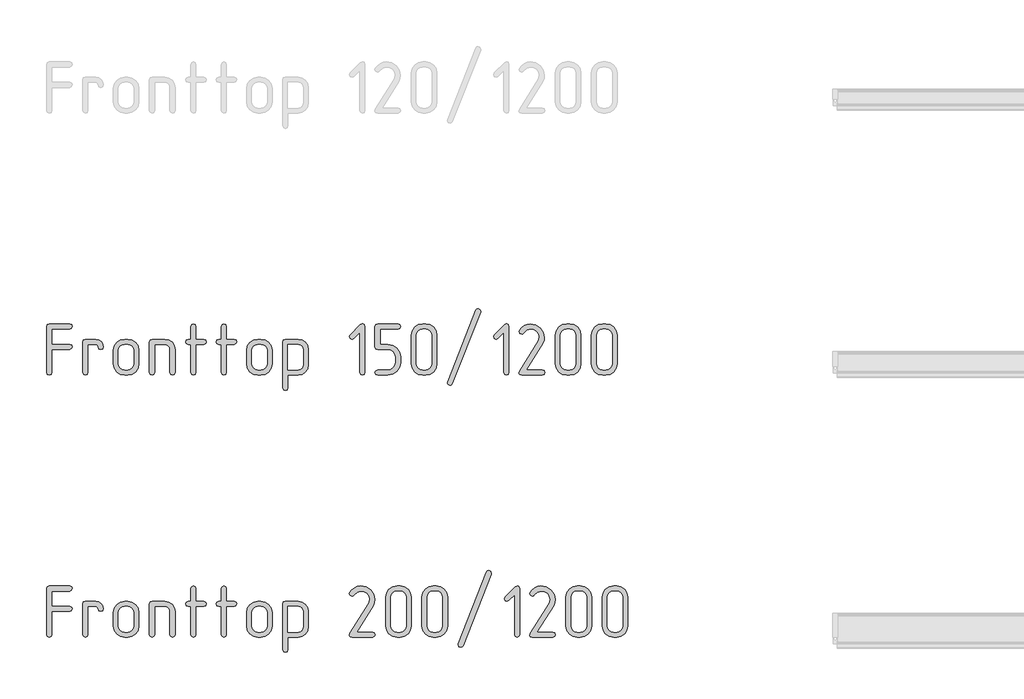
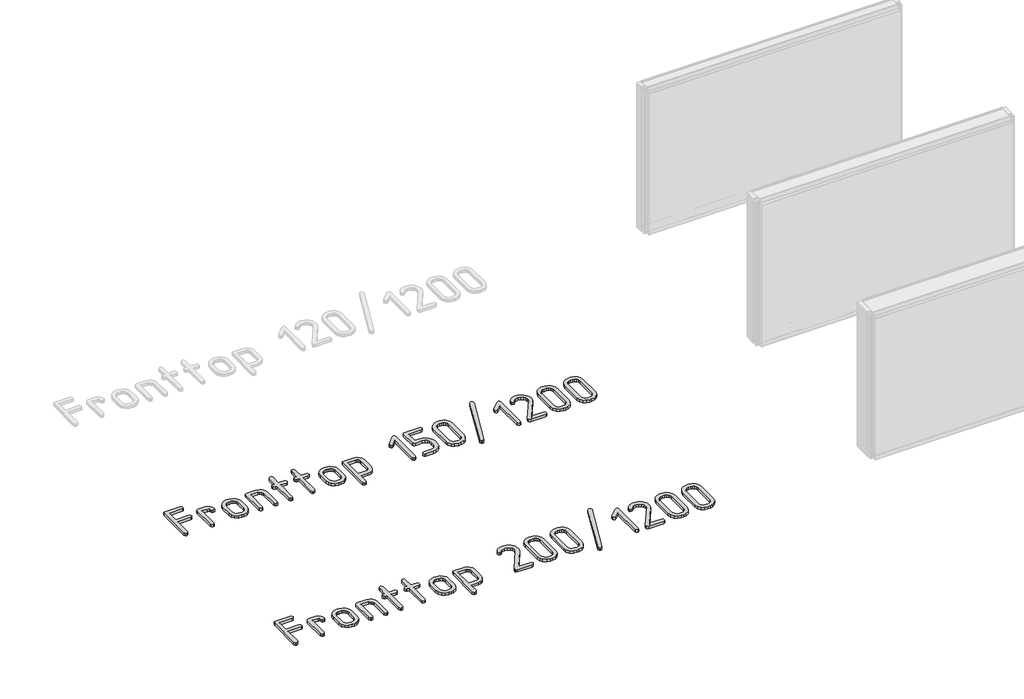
# One storey, part 9 of 37: 2 proxies.
"""IFC4 building model written with IfcOpenShell, lengths in millimetres."""

from ifc_helpers import new_model, si_unit, origin, origin_with_axes, place, context, project, spatial, polyline, outline, extrude, element, save

model = new_model("IFC4")

# Units and contexts
model_context = context("Model", 3, world=origin())
ifc_project = project(units=[si_unit("LENGTHUNIT", "METRE", prefix="MILLI")], contexts=[model_context])

# Site, building, storey
site = spatial("IfcSite", under=ifc_project)
building = spatial("IfcBuilding", under=site)
storey = spatial("IfcBuildingStorey", under=building, Name="Этаж 01", Elevation=0.0)

# Proxies
placement = place(None, origin())
element("IfcBuildingElementProxy", 1, Name="300 мм ГОСТ 2.304", ObjectType="300 мм ГОСТ 2.304", at=placement, inside=storey, context=model_context, shape_type="SweptSolid", body=[
    extrude(outline(polyline([(56161.9989869, -34051.9738322), (56264.4173344, -34051.9738322), (56275.3434297, -34056.0573223), (56278.9854614, -34066.5419592), (56275.1227005, -34077.0633842), (56264.4173344, -34081.5515446), (56161.9989869, -34081.5515446), (56161.9989869, -34213.5476044), (56157.9154968, -34224.4736997), (56147.4308599, -34228.1157314), (56136.9094349, -34224.2529705), (56132.4212745, -34213.5476044), (56132.4212745, -33949.9969431), (56136.1736709, -33938.739754), (56147.4308599, -33934.9873577), (56264.4173344, -33934.9873577), (56275.3434297, -33939.291577), (56278.9854614, -33949.9969431), (56275.1227005, -33960.0769098), (56264.4173344, -33964.5650701), (56161.9989869, -33964.5650701), (56161.9989869, -34051.9738322)])), origin_with_axes(), (0.0, 0.0, 1.0), 20.0),
    extrude(outline(polyline([(56457.0403471, -34066.9834176), (56452.9568569, -34077.9095128), (56442.4722201, -34081.5515446), (56431.950795, -34077.6887836), (56427.4626347, -34066.9834176), (56423.3791445, -34056.7195099), (56412.8945077, -34052.4152905), (56369.1901266, -34052.4152905), (56369.1901266, -34213.5476044), (56365.1066365, -34224.4736997), (56354.6219996, -34228.1157314), (56344.1005746, -34224.2529705), (56339.6124142, -34213.5476044), (56339.6124142, -34037.8471635), (56343.3648106, -34026.9210683), (56354.6219996, -34023.2790365), (56412.8945077, -34023.2790365), (56430.0378086, -34026.7003391), (56444.2012654, -34036.1181182), (56453.6190445, -34050.0608458), (56457.0403471, -34066.9834176)])), origin_with_axes(), (0.0, 0.0, 1.0), 20.0),
    extrude(outline(polyline([(56660.405514, -34163.8099587), (56655.6966245, -34188.7891462), (56641.5699559, -34209.7216317), (56620.9685641, -34223.5172065), (56596.0997413, -34228.1157314), (56578.5149819, -34228.1157314), (56553.5909767, -34223.5172065), (56532.6768853, -34209.7216317), (56518.5502167, -34188.7891462), (56513.8413271, -34163.8099587), (56513.8413271, -34087.5848093), (56518.5502167, -34062.9367156), (56532.6768853, -34042.1145947), (56553.9956469, -34027.9879261), (56578.5149819, -34023.2790365), (56596.0997413, -34023.2790365), (56620.7386379, -34027.9971231), (56641.5331677, -34042.1513829), (56655.6874274, -34062.9459127), (56660.405514, -34087.5848093), (56660.405514, -34163.8099587)]), holes=[polyline([(56631.26926, -34163.8099587), (56631.26926, -34087.5848093), (56628.694086, -34074.0835401), (56620.9685641, -34062.7159864), (56609.6010105, -34054.9904645), (56596.0997413, -34052.4152905), (56578.5149819, -34052.4152905), (56565.0229097, -34054.9904645), (56553.6829472, -34062.7159864), (56545.9850165, -34074.0835401), (56543.4190395, -34087.5848093), (56543.4190395, -34163.8099587), (56545.9850165, -34177.3112279), (56553.6829472, -34188.6787816), (56565.0229097, -34196.4043035), (56578.5149819, -34198.9794774), (56596.0997413, -34198.9794774), (56609.6010105, -34196.4043035), (56620.9685641, -34188.6787816), (56628.694086, -34177.3112279), (56631.26926, -34163.8099587)])]), origin_with_axes(), (0.0, 0.0, 1.0), 20.0),
    extrude(outline(polyline([(56867.5966537, -34213.5476044), (56863.5131635, -34224.4736997), (56853.0285267, -34228.1157314), (56842.7278308, -34224.2529705), (56838.4603997, -34213.5476044), (56838.4603997, -34081.5515446), (56836.3174871, -34070.4139172), (56829.8887492, -34060.986941), (56820.3514085, -34054.5582032), (56808.8826873, -34052.4152905), (56750.6101792, -34052.4152905), (56750.6101792, -34213.5476044), (56746.5266891, -34224.4736997), (56736.0420522, -34228.1157314), (56725.5206272, -34224.2529705), (56721.0324668, -34213.5476044), (56721.0324668, -34037.8471635), (56724.7848632, -34026.9210683), (56736.0420522, -34023.2790365), (56808.8826873, -34023.2790365), (56831.7097651, -34027.4544972), (56850.4533527, -34039.9808791), (56863.3108285, -34058.945196), (56867.5966537, -34081.5515446), (56867.5966537, -34213.5476044)])), origin_with_axes(), (0.0, 0.0, 1.0), 20.0),
    extrude(outline(polyline([(56986.9375729, -34023.2790365), (57031.0834124, -34023.2790365), (57042.0095076, -34027.3625267), (57045.6515394, -34037.8471635), (57041.7887784, -34047.9271302), (57031.0834124, -34052.4152905), (56986.9375729, -34052.4152905), (56986.9375729, -34213.5476044), (56982.8540828, -34224.4736997), (56972.3694459, -34228.1157314), (56962.0687501, -34224.2529705), (56957.8013189, -34213.5476044), (56957.8013189, -34052.4152905), (56943.2331919, -34052.4152905), (56932.3070966, -34048.1478594), (56928.2236065, -34037.8471635), (56932.0863675, -34027.5832559), (56943.2331919, -34023.2790365), (56957.8013189, -34023.2790365), (56957.8013189, -33949.9969431), (56962.0687501, -33939.0708478), (56972.3694459, -33934.9873577), (56982.6333536, -33938.8501186), (56986.9375729, -33949.9969431), (56986.9375729, -34023.2790365)])), origin_with_axes(), (0.0, 0.0, 1.0), 20.0),
    extrude(outline(polyline([(57161.1664858, -34023.2790365), (57205.3123253, -34023.2790365), (57216.2384205, -34027.3625267), (57219.8804523, -34037.8471635), (57216.0176913, -34047.9271302), (57205.3123253, -34052.4152905), (57161.1664858, -34052.4152905), (57161.1664858, -34213.5476044), (57157.0829957, -34224.4736997), (57146.5983588, -34228.1157314), (57136.297663, -34224.2529705), (57132.0302318, -34213.5476044), (57132.0302318, -34052.4152905), (57117.4621048, -34052.4152905), (57106.5360096, -34048.1478594), (57102.4525194, -34037.8471635), (57106.3152804, -34027.5832559), (57117.4621048, -34023.2790365), (57132.0302318, -34023.2790365), (57132.0302318, -33949.9969431), (57136.297663, -33939.0708478), (57146.5983588, -33934.9873577), (57156.8622665, -33938.8501186), (57161.1664858, -33949.9969431), (57161.1664858, -34023.2790365)])), origin_with_axes(), (0.0, 0.0, 1.0), 20.0),
    extrude(outline(polyline([(57423.2456192, -34163.8099587), (57418.5367297, -34188.7891462), (57404.4100611, -34209.7216317), (57383.8086693, -34223.5172065), (57358.9398465, -34228.1157314), (57341.3550871, -34228.1157314), (57316.4310819, -34223.5172065), (57295.5169905, -34209.7216317), (57281.3903219, -34188.7891462), (57276.6814323, -34163.8099587), (57276.6814323, -34087.5848093), (57281.3903219, -34062.9367156), (57295.5169905, -34042.1145947), (57316.8357521, -34027.9879261), (57341.3550871, -34023.2790365), (57358.9398465, -34023.2790365), (57383.5787431, -34027.9971231), (57404.3732729, -34042.1513829), (57418.5275326, -34062.9459127), (57423.2456192, -34087.5848093), (57423.2456192, -34163.8099587)]), holes=[polyline([(57394.1093652, -34163.8099587), (57394.1093652, -34087.5848093), (57391.5341912, -34074.0835401), (57383.8086693, -34062.7159864), (57372.4411157, -34054.9904645), (57358.9398465, -34052.4152905), (57341.3550871, -34052.4152905), (57327.8630149, -34054.9904645), (57316.5230524, -34062.7159864), (57308.8251217, -34074.0835401), (57306.2591447, -34087.5848093), (57306.2591447, -34163.8099587), (57308.8251217, -34177.3112279), (57316.5230524, -34188.6787816), (57327.8630149, -34196.4043035), (57341.3550871, -34198.9794774), (57358.9398465, -34198.9794774), (57372.4411157, -34196.4043035), (57383.8086693, -34188.6787816), (57391.5341912, -34177.3112279), (57394.1093652, -34163.8099587)])]), origin_with_axes(), (0.0, 0.0, 1.0), 20.0),
    extrude(outline(polyline([(57513.4502844, -34228.1157314), (57513.4502844, -34301.3978249), (57509.3667943, -34312.3239201), (57498.8821574, -34315.9659519), (57488.3607324, -34312.1031909), (57483.872572, -34301.3978249), (57483.872572, -34037.8471635), (57487.6249684, -34026.9210683), (57498.8821574, -34023.2790365), (57571.7227925, -34023.2790365), (57594.5498703, -34027.4544972), (57613.2934579, -34039.9808791), (57626.1509337, -34058.945196), (57630.4367589, -34081.5515446), (57630.4367589, -34169.401765), (57626.1509337, -34192.3392074), (57613.2934579, -34211.4138889), (57594.5498703, -34223.9402708), (57571.7227925, -34228.1157314), (57513.4502844, -34228.1157314)]), holes=[polyline([(57513.4502844, -34198.9794774), (57571.7227925, -34198.9794774), (57583.1915137, -34196.8365648), (57592.7288544, -34190.4078269), (57599.1575923, -34180.8704862), (57601.3005049, -34169.401765), (57601.3005049, -34081.5515446), (57599.1575923, -34070.4139172), (57592.7288544, -34060.986941), (57583.1915137, -34054.5582032), (57571.7227925, -34052.4152905), (57513.4502844, -34052.4152905), (57513.4502844, -34198.9794774)])]), origin_with_axes(), (0.0, 0.0, 1.0), 20.0),
    extrude(outline(polyline([(57953.1428451, -34213.5476044), (57949.0593549, -34224.4736997), (57938.5747181, -34228.1157314), (57928.4947514, -34224.2529705), (57924.006591, -34213.5476044), (57924.006591, -33985.1664618), (57890.1614475, -34018.570147), (57880.30221, -34023.2790365), (57869.780785, -34018.7908762), (57865.2926246, -34008.2694511), (57870.0015142, -33998.0423317), (57928.2740222, -33939.6962472), (57941.149892, -33933.2951005), (57949.7215425, -33937.5993199), (57953.1428451, -33949.9969431), (57953.1428451, -34213.5476044)])), origin_with_axes(), (0.0, 0.0, 1.0), 20.0),
    extrude(outline(polyline([(58040.8459127, -33964.5650701), (58040.8459127, -34052.4152905), (58084.5502937, -34052.4152905), (58112.7024634, -34057.7771706), (58136.3848669, -34073.8628109), (58152.4705071, -34097.5452143), (58157.8323872, -34125.697384), (58157.8323872, -34154.833638), (58152.4705071, -34183.0317929), (58136.3848669, -34206.7049993), (58112.7024634, -34222.7630484), (58084.5502937, -34228.1157314), (58026.2777857, -34228.1157314), (58015.3516904, -34223.8483003), (58011.2682003, -34213.5476044), (58015.1309613, -34203.2469086), (58026.2777857, -34198.9794774), (58084.5502937, -34198.9794774), (58101.6935947, -34195.5581749), (58115.8570515, -34185.9196666), (58125.2748306, -34171.7562098), (58128.6961332, -34154.833638), (58128.6961332, -34125.697384), (58125.2748306, -34108.554083), (58115.8570515, -34094.3906262), (58101.6935947, -34084.9728471), (58084.5502937, -34081.5515446), (58026.2777857, -34081.5515446), (58015.0205967, -34077.9095128), (58011.2682003, -34066.9834176), (58011.2682003, -33949.9969431), (58015.0205967, -33938.739754), (58026.2777857, -33934.9873577), (58143.2642602, -33934.9873577), (58154.1903554, -33939.291577), (58157.8323872, -33949.9969431), (58153.9696262, -33960.0769098), (58143.2642602, -33964.5650701), (58040.8459127, -33964.5650701)])), origin_with_axes(), (0.0, 0.0, 1.0), 20.0),
    extrude(outline(polyline([(58365.0235269, -34163.8099587), (58360.3146373, -34188.7891462), (58346.1879687, -34209.7216317), (58325.586577, -34223.5172065), (58300.7177541, -34228.1157314), (58283.1329947, -34228.1157314), (58258.2089896, -34223.5172065), (58237.2948981, -34209.7216317), (58223.1682295, -34188.7891462), (58218.45934, -34163.8099587), (58218.45934, -33999.7345888), (58223.1682295, -33975.0864952), (58237.2948981, -33954.2643742), (58258.3929306, -33939.8066118), (58283.1329947, -33934.9873577), (58300.7177541, -33934.9873577), (58325.3566507, -33939.7054443), (58346.1511805, -33953.859704), (58360.3054403, -33974.7645984), (58365.0235269, -33999.7345888), (58365.0235269, -34163.8099587)]), holes=[polyline([(58335.8872728, -34163.8099587), (58335.8872728, -33999.7345888), (58333.3120989, -33986.2333196), (58325.586577, -33974.865766), (58314.2190233, -33967.1402441), (58300.7177541, -33964.5650701), (58283.1329947, -33964.5650701), (58269.6409226, -33967.1402441), (58258.3009601, -33974.865766), (58250.6030293, -33986.2333196), (58248.0370524, -33999.7345888), (58248.0370524, -34163.8099587), (58250.6030293, -34177.3112279), (58258.3009601, -34188.6787816), (58269.6409226, -34196.4043035), (58283.1329947, -34198.9794774), (58300.7177541, -34198.9794774), (58314.2190233, -34196.4043035), (58325.586577, -34188.6787816), (58333.3120989, -34177.3112279), (58335.8872728, -34163.8099587)])]), origin_with_axes(), (0.0, 0.0, 1.0), 20.0),
    extrude(outline(polyline([(58615.4775892, -33867.2970706), (58454.3452753, -34277.4119188), (58448.7902572, -34284.2545239), (58441.1015235, -34286.8296979), (58430.3593692, -34282.7462077), (58425.6504797, -34272.2615709), (58426.5333965, -34266.6697645), (58587.6657103, -33856.6284927), (58593.2207285, -33849.7123112), (58600.9094622, -33847.1371372), (58611.6516164, -33851.4413566), (58616.360506, -33861.7052642), (58615.4775892, -33867.2970706)])), origin_with_axes(), (0.0, 0.0, 1.0), 20.0),
    extrude(outline(polyline([(58777.1985143, -34213.5476044), (58773.1150241, -34224.4736997), (58762.6303873, -34228.1157314), (58752.5504206, -34224.2529705), (58748.0622602, -34213.5476044), (58748.0622602, -33985.1664618), (58714.2171167, -34018.570147), (58704.3578792, -34023.2790365), (58693.8364542, -34018.7908762), (58689.3482938, -34008.2694511), (58694.0571833, -33998.0423317), (58752.3296914, -33939.6962472), (58765.2055612, -33933.2951005), (58773.7772117, -33937.5993199), (58777.1985143, -33949.9969431), (58777.1985143, -34213.5476044)])), origin_with_axes(), (0.0, 0.0, 1.0), 20.0),
    extrude(outline(polyline([(58971.1459021, -34048.1478594), (58876.4530766, -34198.9794774), (58967.3199294, -34198.9794774), (58978.2460246, -34203.0629676), (58981.8880564, -34213.5476044), (58978.0252954, -34223.6275711), (58967.3199294, -34228.1157314), (58850.3334549, -34228.1157314), (58838.4140783, -34225.2278578), (58834.4409527, -34216.5642368), (58837.8990435, -34205.3806241), (58945.9091972, -34033.138274), (58951.4274272, -34011.2860835), (58947.7853954, -33993.1862893), (58936.8593002, -33978.3238567), (58920.3597927, -33968.0047668), (58900.880441, -33964.5650701), (58879.0282505, -33970.5615466), (58862.3264079, -33986.858719), (58857.4151833, -33991.9906728), (58850.3334549, -33993.7013241), (58840.032759, -33989.6546222), (58835.3238695, -33979.5746555), (58837.8990435, -33971.4076752), (58849.6896614, -33956.6923954), (58864.4601235, -33945.0673244), (58881.1619661, -33937.5073494), (58898.7467255, -33934.9873577), (58930.1270597, -33940.7814991), (58956.5777751, -33958.1639234), (58974.5672047, -33983.0327463), (58980.5636812, -34012.1690003), (58978.2092364, -34030.5814941), (58971.1459021, -34048.1478594)])), origin_with_axes(), (0.0, 0.0, 1.0), 20.0),
    extrude(outline(polyline([(59189.0791961, -34163.8099587), (59184.3703065, -34188.7891462), (59170.2436379, -34209.7216317), (59149.6422462, -34223.5172065), (59124.7734233, -34228.1157314), (59107.1886639, -34228.1157314), (59082.2646588, -34223.5172065), (59061.3505673, -34209.7216317), (59047.2238987, -34188.7891462), (59042.5150092, -34163.8099587), (59042.5150092, -33999.7345888), (59047.2238987, -33975.0864952), (59061.3505673, -33954.2643742), (59082.4485998, -33939.8066118), (59107.1886639, -33934.9873577), (59124.7734233, -33934.9873577), (59149.4123199, -33939.7054443), (59170.2068497, -33953.859704), (59184.3611095, -33974.7645984), (59189.0791961, -33999.7345888), (59189.0791961, -34163.8099587)]), holes=[polyline([(59159.942942, -34163.8099587), (59159.942942, -33999.7345888), (59157.3677681, -33986.2333196), (59149.6422462, -33974.865766), (59138.2746925, -33967.1402441), (59124.7734233, -33964.5650701), (59107.1886639, -33964.5650701), (59093.6965918, -33967.1402441), (59082.3566293, -33974.865766), (59074.6586985, -33986.2333196), (59072.0927216, -33999.7345888), (59072.0927216, -34163.8099587), (59074.6586985, -34177.3112279), (59082.3566293, -34188.6787816), (59093.6965918, -34196.4043035), (59107.1886639, -34198.9794774), (59124.7734233, -34198.9794774), (59138.2746925, -34196.4043035), (59149.6422462, -34188.6787816), (59157.3677681, -34177.3112279), (59159.942942, -34163.8099587)])]), origin_with_axes(), (0.0, 0.0, 1.0), 20.0),
    extrude(outline(polyline([(59396.2703357, -34163.8099587), (59391.5614462, -34188.7891462), (59377.4347776, -34209.7216317), (59356.8333859, -34223.5172065), (59331.964563, -34228.1157314), (59314.3798036, -34228.1157314), (59289.4557984, -34223.5172065), (59268.541707, -34209.7216317), (59254.4150384, -34188.7891462), (59249.7061489, -34163.8099587), (59249.7061489, -33999.7345888), (59254.4150384, -33975.0864952), (59268.541707, -33954.2643742), (59289.6397394, -33939.8066118), (59314.3798036, -33934.9873577), (59331.964563, -33934.9873577), (59356.6034596, -33939.7054443), (59377.3979894, -33953.859704), (59391.5522492, -33974.7645984), (59396.2703357, -33999.7345888), (59396.2703357, -34163.8099587)]), holes=[polyline([(59367.1340817, -34163.8099587), (59367.1340817, -33999.7345888), (59364.5589078, -33986.2333196), (59356.8333859, -33974.865766), (59345.4658322, -33967.1402441), (59331.964563, -33964.5650701), (59314.3798036, -33964.5650701), (59300.8877314, -33967.1402441), (59289.5477689, -33974.865766), (59281.8498382, -33986.2333196), (59279.2838613, -33999.7345888), (59279.2838613, -34163.8099587), (59281.8498382, -34177.3112279), (59289.5477689, -34188.6787816), (59300.8877314, -34196.4043035), (59314.3798036, -34198.9794774), (59331.964563, -34198.9794774), (59345.4658322, -34196.4043035), (59356.8333859, -34188.6787816), (59364.5589078, -34177.3112279), (59367.1340817, -34163.8099587)])]), origin_with_axes(), (0.0, 0.0, 1.0), 20.0),
])
element("IfcBuildingElementProxy", 2, Name="300 мм ГОСТ 2.304", ObjectType="300 мм ГОСТ 2.304", at=placement, inside=storey, context=model_context, shape_type="SweptSolid", body=[
    extrude(outline(polyline([(56161.9989869, -35551.9738322), (56264.4173344, -35551.9738322), (56275.3434297, -35556.0573223), (56278.9854614, -35566.5419592), (56275.1227005, -35577.0633842), (56264.4173344, -35581.5515446), (56161.9989869, -35581.5515446), (56161.9989869, -35713.5476044), (56157.9154968, -35724.4736997), (56147.4308599, -35728.1157314), (56136.9094349, -35724.2529705), (56132.4212745, -35713.5476044), (56132.4212745, -35449.9969431), (56136.1736709, -35438.739754), (56147.4308599, -35434.9873577), (56264.4173344, -35434.9873577), (56275.3434297, -35439.291577), (56278.9854614, -35449.9969431), (56275.1227005, -35460.0769098), (56264.4173344, -35464.5650701), (56161.9989869, -35464.5650701), (56161.9989869, -35551.9738322)])), origin_with_axes(), (0.0, 0.0, 1.0), 20.0),
    extrude(outline(polyline([(56457.0403471, -35566.9834176), (56452.9568569, -35577.9095128), (56442.4722201, -35581.5515446), (56431.950795, -35577.6887836), (56427.4626347, -35566.9834176), (56423.3791445, -35556.7195099), (56412.8945077, -35552.4152905), (56369.1901266, -35552.4152905), (56369.1901266, -35713.5476044), (56365.1066365, -35724.4736997), (56354.6219996, -35728.1157314), (56344.1005746, -35724.2529705), (56339.6124142, -35713.5476044), (56339.6124142, -35537.8471635), (56343.3648106, -35526.9210683), (56354.6219996, -35523.2790365), (56412.8945077, -35523.2790365), (56430.0378086, -35526.7003391), (56444.2012654, -35536.1181182), (56453.6190445, -35550.0608458), (56457.0403471, -35566.9834176)])), origin_with_axes(), (0.0, 0.0, 1.0), 20.0),
    extrude(outline(polyline([(56660.405514, -35663.8099587), (56655.6966245, -35688.7891462), (56641.5699559, -35709.7216317), (56620.9685641, -35723.5172065), (56596.0997413, -35728.1157314), (56578.5149819, -35728.1157314), (56553.5909767, -35723.5172065), (56532.6768853, -35709.7216317), (56518.5502167, -35688.7891462), (56513.8413271, -35663.8099587), (56513.8413271, -35587.5848093), (56518.5502167, -35562.9367156), (56532.6768853, -35542.1145947), (56553.9956469, -35527.9879261), (56578.5149819, -35523.2790365), (56596.0997413, -35523.2790365), (56620.7386379, -35527.9971231), (56641.5331677, -35542.1513829), (56655.6874274, -35562.9459127), (56660.405514, -35587.5848093), (56660.405514, -35663.8099587)]), holes=[polyline([(56631.26926, -35663.8099587), (56631.26926, -35587.5848093), (56628.694086, -35574.0835401), (56620.9685641, -35562.7159864), (56609.6010105, -35554.9904645), (56596.0997413, -35552.4152905), (56578.5149819, -35552.4152905), (56565.0229097, -35554.9904645), (56553.6829472, -35562.7159864), (56545.9850165, -35574.0835401), (56543.4190395, -35587.5848093), (56543.4190395, -35663.8099587), (56545.9850165, -35677.3112279), (56553.6829472, -35688.6787816), (56565.0229097, -35696.4043035), (56578.5149819, -35698.9794774), (56596.0997413, -35698.9794774), (56609.6010105, -35696.4043035), (56620.9685641, -35688.6787816), (56628.694086, -35677.3112279), (56631.26926, -35663.8099587)])]), origin_with_axes(), (0.0, 0.0, 1.0), 20.0),
    extrude(outline(polyline([(56867.5966537, -35713.5476044), (56863.5131635, -35724.4736997), (56853.0285267, -35728.1157314), (56842.7278308, -35724.2529705), (56838.4603997, -35713.5476044), (56838.4603997, -35581.5515446), (56836.3174871, -35570.4139172), (56829.8887492, -35560.986941), (56820.3514085, -35554.5582032), (56808.8826873, -35552.4152905), (56750.6101792, -35552.4152905), (56750.6101792, -35713.5476044), (56746.5266891, -35724.4736997), (56736.0420522, -35728.1157314), (56725.5206272, -35724.2529705), (56721.0324668, -35713.5476044), (56721.0324668, -35537.8471635), (56724.7848632, -35526.9210683), (56736.0420522, -35523.2790365), (56808.8826873, -35523.2790365), (56831.7097651, -35527.4544972), (56850.4533527, -35539.9808791), (56863.3108285, -35558.945196), (56867.5966537, -35581.5515446), (56867.5966537, -35713.5476044)])), origin_with_axes(), (0.0, 0.0, 1.0), 20.0),
    extrude(outline(polyline([(56986.9375729, -35523.2790365), (57031.0834124, -35523.2790365), (57042.0095076, -35527.3625267), (57045.6515394, -35537.8471635), (57041.7887784, -35547.9271302), (57031.0834124, -35552.4152905), (56986.9375729, -35552.4152905), (56986.9375729, -35713.5476044), (56982.8540828, -35724.4736997), (56972.3694459, -35728.1157314), (56962.0687501, -35724.2529705), (56957.8013189, -35713.5476044), (56957.8013189, -35552.4152905), (56943.2331919, -35552.4152905), (56932.3070966, -35548.1478594), (56928.2236065, -35537.8471635), (56932.0863675, -35527.5832559), (56943.2331919, -35523.2790365), (56957.8013189, -35523.2790365), (56957.8013189, -35449.9969431), (56962.0687501, -35439.0708478), (56972.3694459, -35434.9873577), (56982.6333536, -35438.8501186), (56986.9375729, -35449.9969431), (56986.9375729, -35523.2790365)])), origin_with_axes(), (0.0, 0.0, 1.0), 20.0),
    extrude(outline(polyline([(57161.1664858, -35523.2790365), (57205.3123253, -35523.2790365), (57216.2384205, -35527.3625267), (57219.8804523, -35537.8471635), (57216.0176913, -35547.9271302), (57205.3123253, -35552.4152905), (57161.1664858, -35552.4152905), (57161.1664858, -35713.5476044), (57157.0829957, -35724.4736997), (57146.5983588, -35728.1157314), (57136.297663, -35724.2529705), (57132.0302318, -35713.5476044), (57132.0302318, -35552.4152905), (57117.4621048, -35552.4152905), (57106.5360096, -35548.1478594), (57102.4525194, -35537.8471635), (57106.3152804, -35527.5832559), (57117.4621048, -35523.2790365), (57132.0302318, -35523.2790365), (57132.0302318, -35449.9969431), (57136.297663, -35439.0708478), (57146.5983588, -35434.9873577), (57156.8622665, -35438.8501186), (57161.1664858, -35449.9969431), (57161.1664858, -35523.2790365)])), origin_with_axes(), (0.0, 0.0, 1.0), 20.0),
    extrude(outline(polyline([(57423.2456192, -35663.8099587), (57418.5367297, -35688.7891462), (57404.4100611, -35709.7216317), (57383.8086693, -35723.5172065), (57358.9398465, -35728.1157314), (57341.3550871, -35728.1157314), (57316.4310819, -35723.5172065), (57295.5169905, -35709.7216317), (57281.3903219, -35688.7891462), (57276.6814323, -35663.8099587), (57276.6814323, -35587.5848093), (57281.3903219, -35562.9367156), (57295.5169905, -35542.1145947), (57316.8357521, -35527.9879261), (57341.3550871, -35523.2790365), (57358.9398465, -35523.2790365), (57383.5787431, -35527.9971231), (57404.3732729, -35542.1513829), (57418.5275326, -35562.9459127), (57423.2456192, -35587.5848093), (57423.2456192, -35663.8099587)]), holes=[polyline([(57394.1093652, -35663.8099587), (57394.1093652, -35587.5848093), (57391.5341912, -35574.0835401), (57383.8086693, -35562.7159864), (57372.4411157, -35554.9904645), (57358.9398465, -35552.4152905), (57341.3550871, -35552.4152905), (57327.8630149, -35554.9904645), (57316.5230524, -35562.7159864), (57308.8251217, -35574.0835401), (57306.2591447, -35587.5848093), (57306.2591447, -35663.8099587), (57308.8251217, -35677.3112279), (57316.5230524, -35688.6787816), (57327.8630149, -35696.4043035), (57341.3550871, -35698.9794774), (57358.9398465, -35698.9794774), (57372.4411157, -35696.4043035), (57383.8086693, -35688.6787816), (57391.5341912, -35677.3112279), (57394.1093652, -35663.8099587)])]), origin_with_axes(), (0.0, 0.0, 1.0), 20.0),
    extrude(outline(polyline([(57513.4502844, -35728.1157314), (57513.4502844, -35801.3978249), (57509.3667943, -35812.3239201), (57498.8821574, -35815.9659519), (57488.3607324, -35812.1031909), (57483.872572, -35801.3978249), (57483.872572, -35537.8471635), (57487.6249684, -35526.9210683), (57498.8821574, -35523.2790365), (57571.7227925, -35523.2790365), (57594.5498703, -35527.4544972), (57613.2934579, -35539.9808791), (57626.1509337, -35558.945196), (57630.4367589, -35581.5515446), (57630.4367589, -35669.401765), (57626.1509337, -35692.3392074), (57613.2934579, -35711.4138889), (57594.5498703, -35723.9402708), (57571.7227925, -35728.1157314), (57513.4502844, -35728.1157314)]), holes=[polyline([(57513.4502844, -35698.9794774), (57571.7227925, -35698.9794774), (57583.1915137, -35696.8365648), (57592.7288544, -35690.4078269), (57599.1575923, -35680.8704862), (57601.3005049, -35669.401765), (57601.3005049, -35581.5515446), (57599.1575923, -35570.4139172), (57592.7288544, -35560.986941), (57583.1915137, -35554.5582032), (57571.7227925, -35552.4152905), (57513.4502844, -35552.4152905), (57513.4502844, -35698.9794774)])]), origin_with_axes(), (0.0, 0.0, 1.0), 20.0),
    extrude(outline(polyline([(58001.1146572, -35548.1478594), (57906.4218317, -35698.9794774), (57997.2886845, -35698.9794774), (58008.2147797, -35703.0629676), (58011.8568115, -35713.5476044), (58007.9940505, -35723.6275711), (57997.2886845, -35728.1157314), (57880.30221, -35728.1157314), (57868.3828334, -35725.2278578), (57864.4097078, -35716.5642368), (57867.8677986, -35705.3806241), (57975.8779524, -35533.138274), (57981.3961823, -35511.2860835), (57977.7541505, -35493.1862893), (57966.8280553, -35478.3238567), (57950.3285478, -35468.0047668), (57930.8491962, -35464.5650701), (57908.9970056, -35470.5615466), (57892.2951631, -35486.858719), (57887.3839384, -35491.9906728), (57880.30221, -35493.7013241), (57870.0015142, -35489.6546222), (57865.2926246, -35479.5746555), (57867.8677986, -35471.4076752), (57879.6584165, -35456.6923954), (57894.4288786, -35445.0673244), (57911.1307212, -35437.5073494), (57928.7154806, -35434.9873577), (57960.0958148, -35440.7814991), (57986.5465302, -35458.1639234), (58004.5359598, -35483.0327463), (58010.5324363, -35512.1690003), (58008.1779915, -35530.5814941), (58001.1146572, -35548.1478594)])), origin_with_axes(), (0.0, 0.0, 1.0), 20.0),
    extrude(outline(polyline([(58219.0479512, -35663.8099587), (58214.3390616, -35688.7891462), (58200.212393, -35709.7216317), (58179.6110013, -35723.5172065), (58154.7421784, -35728.1157314), (58137.1574191, -35728.1157314), (58112.2334139, -35723.5172065), (58091.3193225, -35709.7216317), (58077.1926538, -35688.7891462), (58072.4837643, -35663.8099587), (58072.4837643, -35499.7345888), (58077.1926538, -35475.0864952), (58091.3193225, -35454.2643742), (58112.4173549, -35439.8066118), (58137.1574191, -35434.9873577), (58154.7421784, -35434.9873577), (58179.381075, -35439.7054443), (58200.1756048, -35453.859704), (58214.3298646, -35474.7645984), (58219.0479512, -35499.7345888), (58219.0479512, -35663.8099587)]), holes=[polyline([(58189.9116972, -35663.8099587), (58189.9116972, -35499.7345888), (58187.3365232, -35486.2333196), (58179.6110013, -35474.865766), (58168.2434476, -35467.1402441), (58154.7421784, -35464.5650701), (58137.1574191, -35464.5650701), (58123.6653469, -35467.1402441), (58112.3253844, -35474.865766), (58104.6274536, -35486.2333196), (58102.0614767, -35499.7345888), (58102.0614767, -35663.8099587), (58104.6274536, -35677.3112279), (58112.3253844, -35688.6787816), (58123.6653469, -35696.4043035), (58137.1574191, -35698.9794774), (58154.7421784, -35698.9794774), (58168.2434476, -35696.4043035), (58179.6110013, -35688.6787816), (58187.3365232, -35677.3112279), (58189.9116972, -35663.8099587)])]), origin_with_axes(), (0.0, 0.0, 1.0), 20.0),
    extrude(outline(polyline([(58426.2390909, -35663.8099587), (58421.5302013, -35688.7891462), (58407.4035327, -35709.7216317), (58386.802141, -35723.5172065), (58361.9333181, -35728.1157314), (58344.3485587, -35728.1157314), (58319.4245536, -35723.5172065), (58298.5104621, -35709.7216317), (58284.3837935, -35688.7891462), (58279.674904, -35663.8099587), (58279.674904, -35499.7345888), (58284.3837935, -35475.0864952), (58298.5104621, -35454.2643742), (58319.6084946, -35439.8066118), (58344.3485587, -35434.9873577), (58361.9333181, -35434.9873577), (58386.5722147, -35439.7054443), (58407.3667445, -35453.859704), (58421.5210043, -35474.7645984), (58426.2390909, -35499.7345888), (58426.2390909, -35663.8099587)]), holes=[polyline([(58397.1028368, -35663.8099587), (58397.1028368, -35499.7345888), (58394.5276629, -35486.2333196), (58386.802141, -35474.865766), (58375.4345873, -35467.1402441), (58361.9333181, -35464.5650701), (58344.3485587, -35464.5650701), (58330.8564866, -35467.1402441), (58319.5165241, -35474.865766), (58311.8185933, -35486.2333196), (58309.2526164, -35499.7345888), (58309.2526164, -35663.8099587), (58311.8185933, -35677.3112279), (58319.5165241, -35688.6787816), (58330.8564866, -35696.4043035), (58344.3485587, -35698.9794774), (58361.9333181, -35698.9794774), (58375.4345873, -35696.4043035), (58386.802141, -35688.6787816), (58394.5276629, -35677.3112279), (58397.1028368, -35663.8099587)])]), origin_with_axes(), (0.0, 0.0, 1.0), 20.0),
    extrude(outline(polyline([(58676.6931532, -35367.2970706), (58515.5608393, -35777.4119188), (58510.0058212, -35784.2545239), (58502.3170875, -35786.8296979), (58491.5749332, -35782.7462077), (58486.8660437, -35772.2615709), (58487.7489605, -35766.6697645), (58648.8812743, -35356.6284927), (58654.4362925, -35349.7123112), (58662.1250262, -35347.1371372), (58672.8671804, -35351.4413566), (58677.57607, -35361.7052642), (58676.6931532, -35367.2970706)])), origin_with_axes(), (0.0, 0.0, 1.0), 20.0),
    extrude(outline(polyline([(58838.4140783, -35713.5476044), (58834.3305881, -35724.4736997), (58823.8459512, -35728.1157314), (58813.7659846, -35724.2529705), (58809.2778242, -35713.5476044), (58809.2778242, -35485.1664618), (58775.4326807, -35518.570147), (58765.5734432, -35523.2790365), (58755.0520182, -35518.7908762), (58750.5638578, -35508.2694511), (58755.2727473, -35498.0423317), (58813.5452554, -35439.6962472), (58826.4211252, -35433.2951005), (58834.9927757, -35437.5993199), (58838.4140783, -35449.9969431), (58838.4140783, -35713.5476044)])), origin_with_axes(), (0.0, 0.0, 1.0), 20.0),
    extrude(outline(polyline([(59032.3614661, -35548.1478594), (58937.6686406, -35698.9794774), (59028.5354934, -35698.9794774), (59039.4615886, -35703.0629676), (59043.1036204, -35713.5476044), (59039.2408594, -35723.6275711), (59028.5354934, -35728.1157314), (58911.5490189, -35728.1157314), (58899.6296423, -35725.2278578), (58895.6565167, -35716.5642368), (58899.1146075, -35705.3806241), (59007.1247612, -35533.138274), (59012.6429912, -35511.2860835), (59009.0009594, -35493.1862893), (58998.0748642, -35478.3238567), (58981.5753567, -35468.0047668), (58962.096005, -35464.5650701), (58940.2438145, -35470.5615466), (58923.5419719, -35486.858719), (58918.6307473, -35491.9906728), (58911.5490189, -35493.7013241), (58901.248323, -35489.6546222), (58896.5394335, -35479.5746555), (58899.1146075, -35471.4076752), (58910.9052254, -35456.6923954), (58925.6756875, -35445.0673244), (58942.3775301, -35437.5073494), (58959.9622895, -35434.9873577), (58991.3426237, -35440.7814991), (59017.7933391, -35458.1639234), (59035.7827687, -35483.0327463), (59041.7792452, -35512.1690003), (59039.4248004, -35530.5814941), (59032.3614661, -35548.1478594)])), origin_with_axes(), (0.0, 0.0, 1.0), 20.0),
    extrude(outline(polyline([(59250.2947601, -35663.8099587), (59245.5858705, -35688.7891462), (59231.4592019, -35709.7216317), (59210.8578102, -35723.5172065), (59185.9889873, -35728.1157314), (59168.4042279, -35728.1157314), (59143.4802228, -35723.5172065), (59122.5661313, -35709.7216317), (59108.4394627, -35688.7891462), (59103.7305732, -35663.8099587), (59103.7305732, -35499.7345888), (59108.4394627, -35475.0864952), (59122.5661313, -35454.2643742), (59143.6641638, -35439.8066118), (59168.4042279, -35434.9873577), (59185.9889873, -35434.9873577), (59210.6278839, -35439.7054443), (59231.4224137, -35453.859704), (59245.5766735, -35474.7645984), (59250.2947601, -35499.7345888), (59250.2947601, -35663.8099587)]), holes=[polyline([(59221.158506, -35663.8099587), (59221.158506, -35499.7345888), (59218.5833321, -35486.2333196), (59210.8578102, -35474.865766), (59199.4902565, -35467.1402441), (59185.9889873, -35464.5650701), (59168.4042279, -35464.5650701), (59154.9121558, -35467.1402441), (59143.5721933, -35474.865766), (59135.8742625, -35486.2333196), (59133.3082856, -35499.7345888), (59133.3082856, -35663.8099587), (59135.8742625, -35677.3112279), (59143.5721933, -35688.6787816), (59154.9121558, -35696.4043035), (59168.4042279, -35698.9794774), (59185.9889873, -35698.9794774), (59199.4902565, -35696.4043035), (59210.8578102, -35688.6787816), (59218.5833321, -35677.3112279), (59221.158506, -35663.8099587)])]), origin_with_axes(), (0.0, 0.0, 1.0), 20.0),
    extrude(outline(polyline([(59457.4858997, -35663.8099587), (59452.7770102, -35688.7891462), (59438.6503416, -35709.7216317), (59418.0489499, -35723.5172065), (59393.180127, -35728.1157314), (59375.5953676, -35728.1157314), (59350.6713624, -35723.5172065), (59329.757271, -35709.7216317), (59315.6306024, -35688.7891462), (59310.9217129, -35663.8099587), (59310.9217129, -35499.7345888), (59315.6306024, -35475.0864952), (59329.757271, -35454.2643742), (59350.8553034, -35439.8066118), (59375.5953676, -35434.9873577), (59393.180127, -35434.9873577), (59417.8190236, -35439.7054443), (59438.6135534, -35453.859704), (59452.7678132, -35474.7645984), (59457.4858997, -35499.7345888), (59457.4858997, -35663.8099587)]), holes=[polyline([(59428.3496457, -35663.8099587), (59428.3496457, -35499.7345888), (59425.7744718, -35486.2333196), (59418.0489499, -35474.865766), (59406.6813962, -35467.1402441), (59393.180127, -35464.5650701), (59375.5953676, -35464.5650701), (59362.1032954, -35467.1402441), (59350.7633329, -35474.865766), (59343.0654022, -35486.2333196), (59340.4994253, -35499.7345888), (59340.4994253, -35663.8099587), (59343.0654022, -35677.3112279), (59350.7633329, -35688.6787816), (59362.1032954, -35696.4043035), (59375.5953676, -35698.9794774), (59393.180127, -35698.9794774), (59406.6813962, -35696.4043035), (59418.0489499, -35688.6787816), (59425.7744718, -35677.3112279), (59428.3496457, -35663.8099587)])]), origin_with_axes(), (0.0, 0.0, 1.0), 20.0),
])

save(model, "model.ifc")
